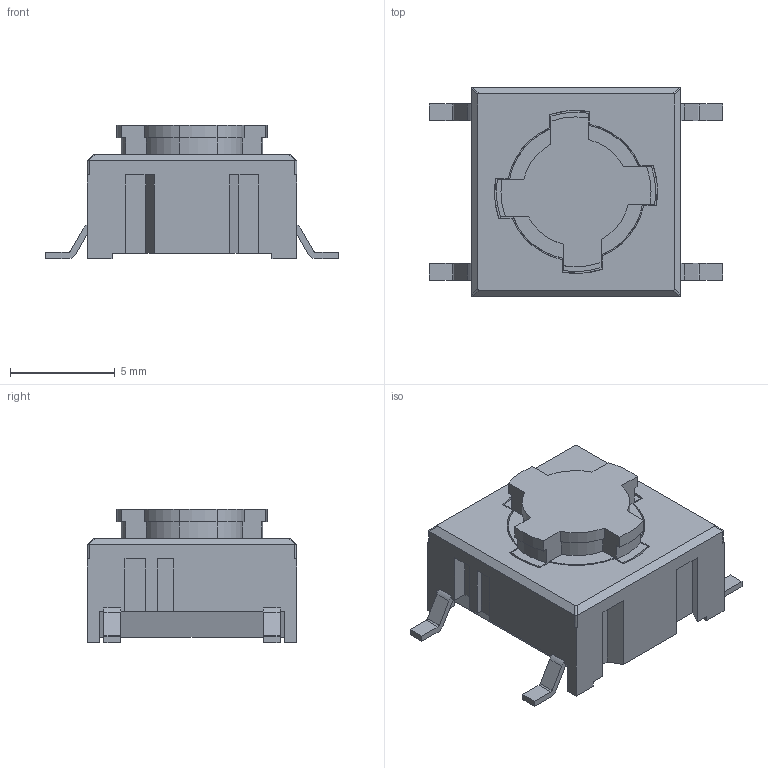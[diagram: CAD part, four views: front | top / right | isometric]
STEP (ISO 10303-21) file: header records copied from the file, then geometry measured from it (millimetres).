
FILE_DESCRIPTION((''),'2;1');
FILE_NAME('C:\AIS_Workspace\mec\MULTIMEC-SOLID\STP\5ESH9.stp','2009-10-14T13:41:53',('FD'),(''),'Autodesk Inventor 2010','Autodesk Inventor 2010','');
FILE_SCHEMA(('AUTOMOTIVE_DESIGN { 1 0 10303 214 1 1 1 1 }'));
Length unit declared in the file: millimetre
Products named in the file (1): Part111
Bounding box: 14 x 10 x 6.37 mm (x, y, z)
Volume: 469.8 mm3; surface area: 536.3 mm2
Topology: 1 solids, 1 shells, 308 faces, 919 edges, 606 vertices
Faces by surface type: plane 198, bspline 69, cylinder 41
Entity records: 10721 total; most frequent: CARTESIAN_POINT 2575, ORIENTED_EDGE 1838, DIRECTION 1503, EDGE_CURVE 919, VECTOR 691, LINE 691, VERTEX_POINT 606, AXIS2_PLACEMENT_3D 406
